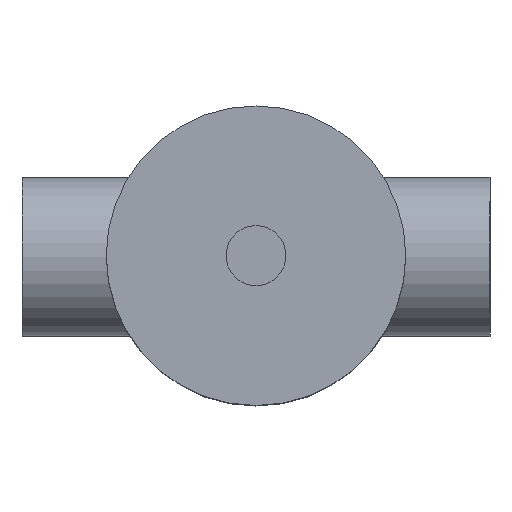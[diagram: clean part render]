
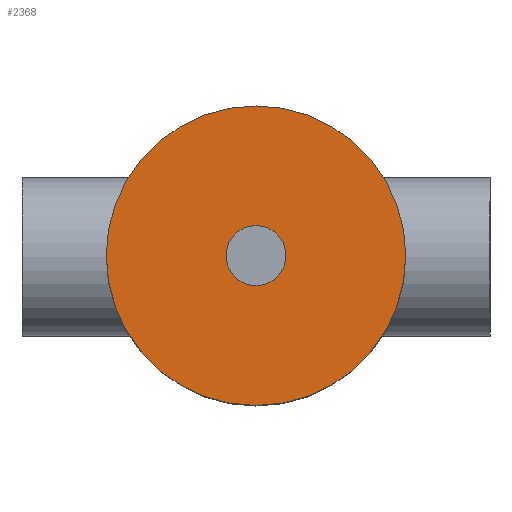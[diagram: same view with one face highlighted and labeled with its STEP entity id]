
A CAD part, top view. The second image highlights one B-rep face of the part: STEP entity #2368.
In plain terms, the highlighted planar face has unit normal (0, 0, 1).
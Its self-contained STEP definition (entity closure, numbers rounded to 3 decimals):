
#2284 = CYLINDRICAL_SURFACE('',#2285,80.);
#2285 = AXIS2_PLACEMENT_3D('',#2286,#2287,#2288);
#2286 = CARTESIAN_POINT('',(0.,0.,209.5));
#2287 = DIRECTION('',(0.,0.,1.));
#2288 = DIRECTION('',(1.,0.,0.));
#2317 = EDGE_CURVE('',#2318,#2318,#2320,.T.);
#2318 = VERTEX_POINT('',#2319);
#2319 = CARTESIAN_POINT('',(80.,0.,377.1));
#2320 = SURFACE_CURVE('',#2321,(#2326,#2333),.PCURVE_S1.);
#2321 = CIRCLE('',#2322,80.);
#2322 = AXIS2_PLACEMENT_3D('',#2323,#2324,#2325);
#2323 = CARTESIAN_POINT('',(0.,0.,377.1));
#2324 = DIRECTION('',(0.,0.,1.));
#2325 = DIRECTION('',(1.,0.,0.));
#2326 = PCURVE('',#2284,#2327);
#2327 = DEFINITIONAL_REPRESENTATION('',(#2328),#2332);
#2328 = LINE('',#2329,#2330);
#2329 = CARTESIAN_POINT('',(0.,167.6));
#2330 = VECTOR('',#2331,1.);
#2331 = DIRECTION('',(1.,0.));
#2332 = ( GEOMETRIC_REPRESENTATION_CONTEXT(2) 
PARAMETRIC_REPRESENTATION_CONTEXT() REPRESENTATION_CONTEXT('2D SPACE',''
  ) );
#2333 = PCURVE('',#2334,#2339);
#2334 = PLANE('',#2335);
#2335 = AXIS2_PLACEMENT_3D('',#2336,#2337,#2338);
#2336 = CARTESIAN_POINT('',(0.,0.,377.1));
#2337 = DIRECTION('',(0.,0.,1.));
#2338 = DIRECTION('',(1.,0.,0.));
#2339 = DEFINITIONAL_REPRESENTATION('',(#2340),#2344);
#2340 = CIRCLE('',#2341,80.);
#2341 = AXIS2_PLACEMENT_2D('',#2342,#2343);
#2342 = CARTESIAN_POINT('',(0.,0.));
#2343 = DIRECTION('',(1.,0.));
#2344 = ( GEOMETRIC_REPRESENTATION_CONTEXT(2) 
PARAMETRIC_REPRESENTATION_CONTEXT() REPRESENTATION_CONTEXT('2D SPACE',''
  ) );
#2368 = ADVANCED_FACE('',(#2369,#2372),#2334,.T.);
#2369 = FACE_BOUND('',#2370,.T.);
#2370 = EDGE_LOOP('',(#2371));
#2371 = ORIENTED_EDGE('',*,*,#2317,.T.);
#2372 = FACE_BOUND('',#2373,.T.);
#2373 = EDGE_LOOP('',(#2374));
#2374 = ORIENTED_EDGE('',*,*,#2375,.F.);
#2375 = EDGE_CURVE('',#2376,#2376,#2378,.T.);
#2376 = VERTEX_POINT('',#2377);
#2377 = CARTESIAN_POINT('',(16.,0.,377.1));
#2378 = SURFACE_CURVE('',#2379,(#2384,#2391),.PCURVE_S1.);
#2379 = CIRCLE('',#2380,16.);
#2380 = AXIS2_PLACEMENT_3D('',#2381,#2382,#2383);
#2381 = CARTESIAN_POINT('',(0.,0.,377.1));
#2382 = DIRECTION('',(0.,0.,1.));
#2383 = DIRECTION('',(1.,0.,-0.));
#2384 = PCURVE('',#2334,#2385);
#2385 = DEFINITIONAL_REPRESENTATION('',(#2386),#2390);
#2386 = CIRCLE('',#2387,16.);
#2387 = AXIS2_PLACEMENT_2D('',#2388,#2389);
#2388 = CARTESIAN_POINT('',(0.,0.));
#2389 = DIRECTION('',(1.,0.));
#2390 = ( GEOMETRIC_REPRESENTATION_CONTEXT(2) 
PARAMETRIC_REPRESENTATION_CONTEXT() REPRESENTATION_CONTEXT('2D SPACE',''
  ) );
#2391 = PCURVE('',#2392,#2397);
#2392 = CYLINDRICAL_SURFACE('',#2393,16.);
#2393 = AXIS2_PLACEMENT_3D('',#2394,#2395,#2396);
#2394 = CARTESIAN_POINT('',(0.,0.,72.));
#2395 = DIRECTION('',(0.,0.,1.));
#2396 = DIRECTION('',(1.,0.,0.));
#2397 = DEFINITIONAL_REPRESENTATION('',(#2398),#2402);
#2398 = LINE('',#2399,#2400);
#2399 = CARTESIAN_POINT('',(0.,305.1));
#2400 = VECTOR('',#2401,1.);
#2401 = DIRECTION('',(1.,0.));
#2402 = ( GEOMETRIC_REPRESENTATION_CONTEXT(2) 
PARAMETRIC_REPRESENTATION_CONTEXT() REPRESENTATION_CONTEXT('2D SPACE',''
  ) );
